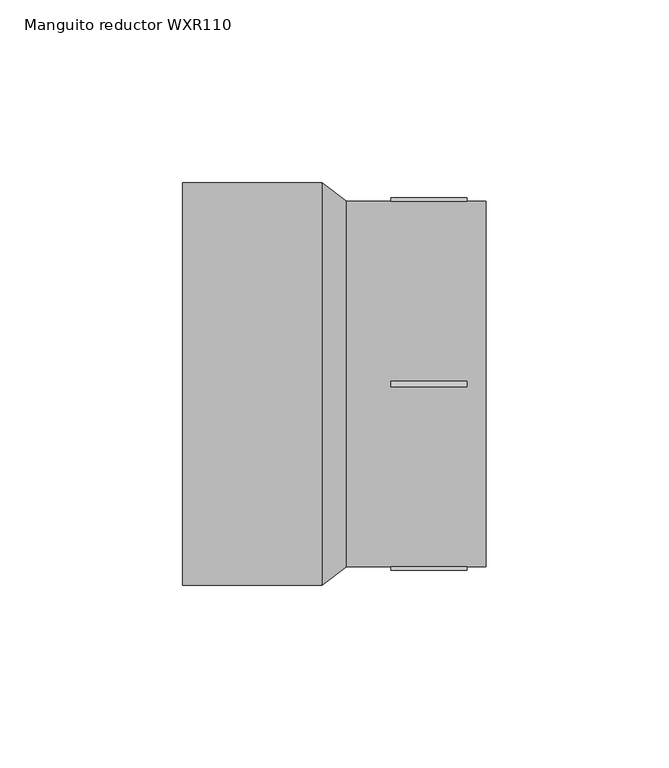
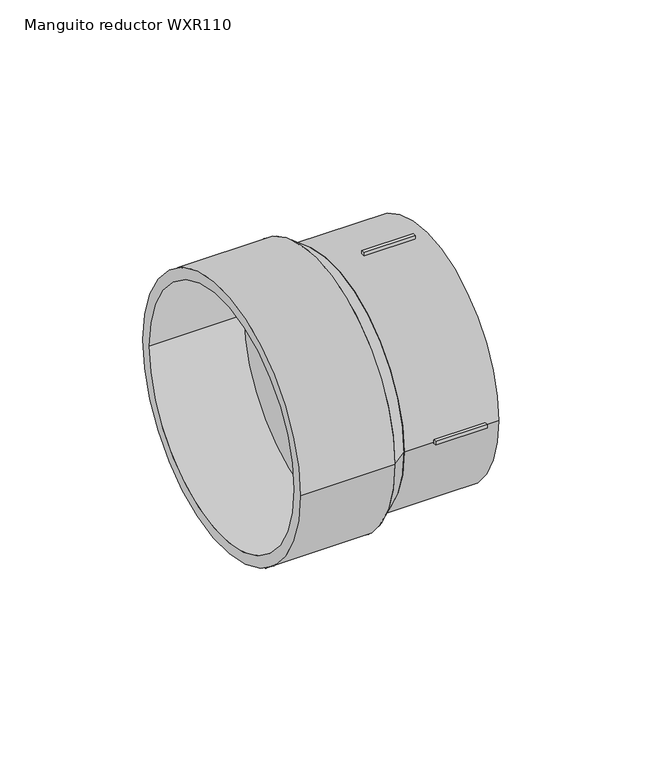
"""IFC4 building model written with IfcOpenShell, lengths in millimetres: pipe fitting geometry, EGB_VASEN_ PPR_Manguito reductor WXR110 : Manguito reductor WXR110."""

from ifc_helpers import new_model, si_unit, point, frame, origin, origin_2d, place, context, project, spatial, polyline, circle_curve, trimmed, segment, composite_curve, outline, extrude, source, transform, mapped, element, save
from ifc_brep_helpers import plane_surface, revolved_surface, advanced_brep


def manguito_reductor_wxr110_db58c620(model_context):
    return source(origin(), model_context, "Body", "SolidModel", [
        extrude(outline(polyline([(15.5, -0.75), (15.5, 0.75), (36.3, 0.75), (36.3, -0.75), (15.5, -0.75)])), frame((0.0, 0.0, 49.0), z_axis=(0.0, 0.0, 1.0), x_axis=(1.0, 0.0, 0.0)), (0.0, 0.0, 1.0), 2.0),
        extrude(outline(polyline([(15.5, -0.75), (15.5, 0.75), (36.3, 0.75), (36.3, -0.75), (15.5, -0.75)])), frame((0.0, 0.0, -51.0), z_axis=(0.0, 0.0, 1.0), x_axis=(1.0, 0.0, 0.0)), (0.0, 0.0, 1.0), 2.0),
        extrude(outline(polyline([(15.5, 49.0), (15.5, 51.0), (36.3, 51.0), (36.3, 49.0), (15.5, 49.0)])), frame((0.0, 0.0, -0.75), z_axis=(0.0, 0.0, 1.0), x_axis=(1.0, 0.0, 0.0)), (0.0, 0.0, 1.0), 1.5),
        extrude(outline(polyline([(15.5, -51.0), (15.5, -49.0), (36.3, -49.0), (36.3, -51.0), (15.5, -51.0)])), frame((0.0, 0.0, -0.75), z_axis=(0.0, 0.0, 1.0), x_axis=(1.0, 0.0, 0.0)), (0.0, 0.0, 1.0), 1.5),
        extrude(outline(composite_curve([segment(trimmed(circle_curve(origin_2d(), 50.0), [point((-50.0, 0.0))], [point((50.0, 0.0))], False, "CARTESIAN"), True, "CONTINUOUS"), segment(trimmed(circle_curve(origin_2d(), 50.0), [point((50.0, 0.0))], [point((-50.0, 0.0))], False, "CARTESIAN"), True, "CONTINUOUS")], self_intersect=False), holes=[composite_curve([segment(trimmed(circle_curve(origin_2d(), 37.5), [point((-37.5, 0.0))], [point((37.5, 0.0))], True, "CARTESIAN"), True, "CONTINUOUS"), segment(trimmed(circle_curve(origin_2d(), 37.5), [point((37.5, 0.0))], [point((-37.5, 0.0))], True, "CARTESIAN"), True, "CONTINUOUS")], self_intersect=False)]), frame((3.32, 0.0, 0.0), z_axis=(1.0, 0.0, 0.0), x_axis=(0.0, 1.0, 0.0)), (0.0, 0.0, 1.0), 38.18),
        extrude(outline(composite_curve([segment(trimmed(circle_curve(origin_2d(), 55.0), [point((-55.0, 0.0))], [point((55.0, 0.0))], False, "CARTESIAN"), True, "CONTINUOUS"), segment(trimmed(circle_curve(origin_2d(), 55.0), [point((55.0, 0.0))], [point((-55.0, 0.0))], False, "CARTESIAN"), True, "CONTINUOUS")], self_intersect=False), holes=[composite_curve([segment(trimmed(circle_curve(origin_2d(), 50.5), [point((-50.5, 0.0))], [point((50.5, 0.0))], True, "CARTESIAN"), True, "CONTINUOUS"), segment(trimmed(circle_curve(origin_2d(), 50.5), [point((50.5, 0.0))], [point((-50.5, 0.0))], True, "CARTESIAN"), True, "CONTINUOUS")], self_intersect=False)]), frame((-41.5, 0.0, 0.0), z_axis=(1.0, 0.0, 0.0), x_axis=(0.0, 1.0, 0.0)), (0.0, 0.0, 1.0), 38.18),
        advanced_brep(
        [(3.32, -50.0, 0.0), (3.32, 50.0, 0.0), (-3.32, -55.0, 0.0), (-3.32, 55.0, 0.0)],
        [
            (0, 1, circle_curve(frame((3.32, 0.0, 0.0), z_axis=(1.0, 0.0, 0.0), x_axis=(0.0, -1.0, 0.0)), 50.0)),
            (1, 0, circle_curve(frame((3.32, 0.0, 0.0), z_axis=(1.0, 0.0, 0.0), x_axis=(0.0, 1.0, 0.0)), 50.0)),
            (2, 3, circle_curve(frame((-3.32, 0.0, 0.0), z_axis=(-1.0, 0.0, 0.0), x_axis=(0.0, 1.0, 0.0)), 55.0)),
            (3, 2, circle_curve(frame((-3.32, 0.0, 0.0), z_axis=(-1.0, 0.0, 0.0), x_axis=(0.0, -1.0, 0.0)), 55.0)),
            (3, 1),
            (0, 2),
        ],
        [
            plane_surface(frame((3.32, 0.0, 0.0), z_axis=(1.0, 0.0, 0.0), x_axis=(0.0, 0.0, -1.0))),
            plane_surface(frame((-3.32, 0.0, 0.0), z_axis=(-1.0, 0.0, 0.0), x_axis=(0.0, 0.0, -1.0))),
            revolved_surface(polyline([(3.319999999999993, -50.00000000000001, 0.0), (-3.319999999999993, -55.0, 0.0)]), (69.72, 0.0, 0.0), (-1.0, 0.0, 0.0)),
            revolved_surface(polyline([(3.319999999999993, 50.00000000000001, 0.0), (-3.319999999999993, 55.0, 0.0)]), (69.72, 0.0, 0.0), (-1.0, 0.0, 0.0)),
        ],
        [
            (0, [[1, 2]]),
            (1, [[3, 4]]),
            (2, [[-4, 5, -1, 6]]),
            (3, [[-3, -6, -2, -5]]),
        ],
    ),
    ])


if __name__ == "__main__":
    model = new_model("IFC4")
    model_context = context("Model", 3, world=origin())
    ifc_project = project(units=[si_unit("LENGTHUNIT", "METRE", prefix="MILLI")], contexts=[model_context])
    site = spatial("IfcSite", under=ifc_project)
    building = spatial("IfcBuilding", under=site)
    placement = place(None, origin())
    manguito_reductor_wxr110_shape = manguito_reductor_wxr110_db58c620(model_context)
    element("IfcPipeFitting", 1, ObjectType="EGB_VASEN_ PPR_Manguito reductor WXR110 : Manguito reductor WXR110", at=placement, inside=building, context=model_context, shape_type="MappedRepresentation", body=[
        mapped(manguito_reductor_wxr110_shape, transform((0.0, 0.0, 0.0), x_axis=(1.0, 0.0, 0.0), y_axis=(0.0, 1.0, 0.0), z_axis=(0.0, 0.0, 1.0))),
    ])
    save(model, "model.ifc")
